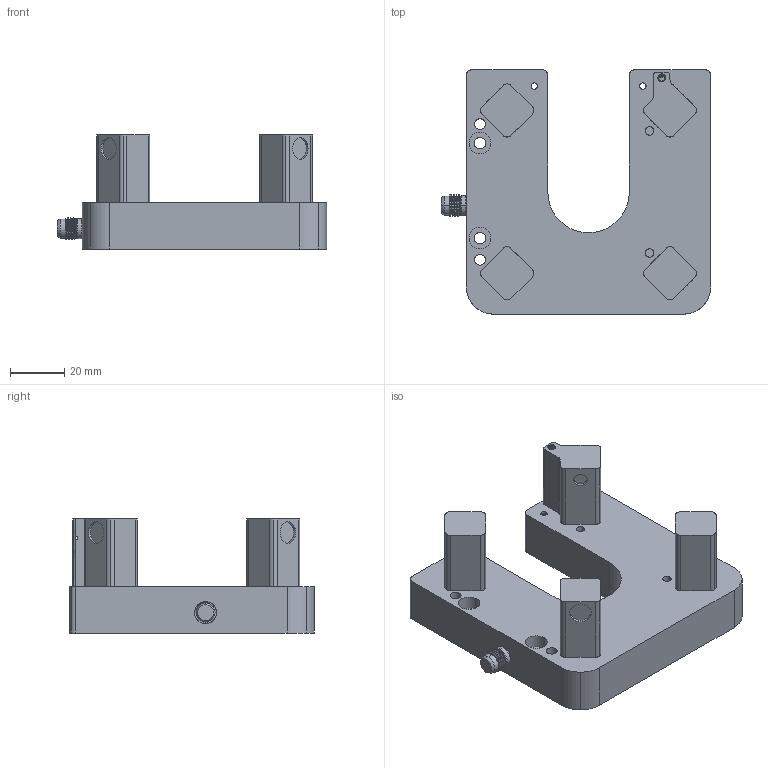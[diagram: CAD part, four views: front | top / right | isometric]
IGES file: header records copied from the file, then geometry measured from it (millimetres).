
Start section: IMSI TurboCAD v14.0
Global section: author: NULL; organization: NULL; date: 20170803.095526; units: millimetre
Bounding box: 99.25 x 90 x 42 mm (x, y, z)
Surface area: 39593.7 mm2 (no closed solid volume)
Topology: 0 solids, 0 shells, 1764 faces, 7899 edges, 7898 vertices
Faces by surface type: revolution 1671, extrusion 91, bspline 2
